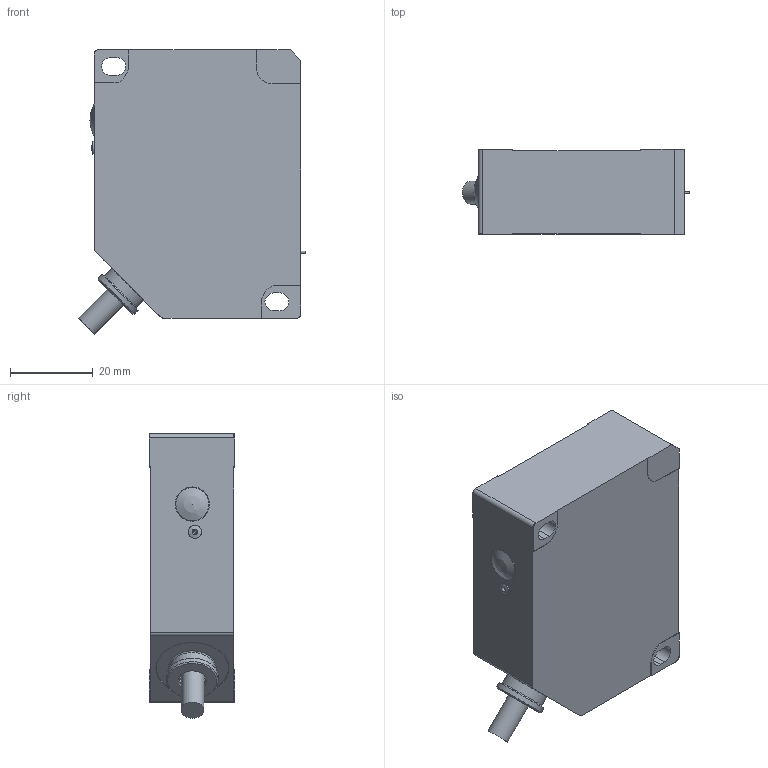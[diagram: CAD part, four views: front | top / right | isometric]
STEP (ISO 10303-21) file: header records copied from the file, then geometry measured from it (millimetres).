
FILE_DESCRIPTION( ( 'Unknown' ), '1' );
FILE_NAME( 'X:/SolidEdge/Models/Dokumentationen/Opto/OADM 20 Kabel/Vereinfachte Modelle/Neutralformate/OADM 20 Kabel.stp', 'Unknown', ( 'Unknown' ), ( 'Unknown' ), 'PSStep 10.0', 'Unknown', ' ' );
FILE_SCHEMA( ( 'AUTOMOTIVE_DESIGN { 1 0 10303 214 1 1 1 1 }' ) );
Length unit declared in the file: millimetre
Products named in the file (2): Hauptgehaeuse-590991
Bounding box: 55.01 x 20.6 x 68.81 mm (x, y, z)
Volume: 62056.7 mm3; surface area: 12075.6 mm2
Topology: 2 solids, 2 shells, 117 faces, 301 edges, 200 vertices
Faces by surface type: plane 64, cylinder 41, cone 6, sphere 3, torus 2, bspline 1
Full cylindrical faces by diameter (mm): 0.5 x1, 3.15 x1, 3.2 x1, 5.5 x1, 6.3 x1, 8 x1, 8.3 x1, 8.8 x1, 9.5 x1, 11 x1, 12.5 x1, 17.5 x1, 17.7 x1
Entity records: 4399 total; most frequent: CARTESIAN_POINT 728, DIRECTION 554, ORIENTED_EDGE 532, EDGE_CURVE 266, AXIS2_PLACEMENT_3D 206, VERTEX_POINT 188, EDGE_LOOP 156, LINE 142
